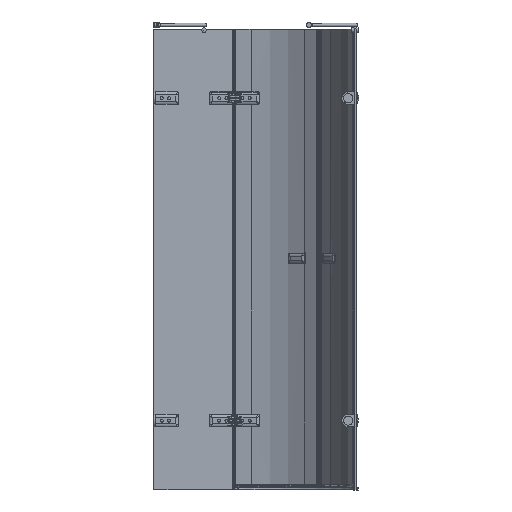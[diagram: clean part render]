
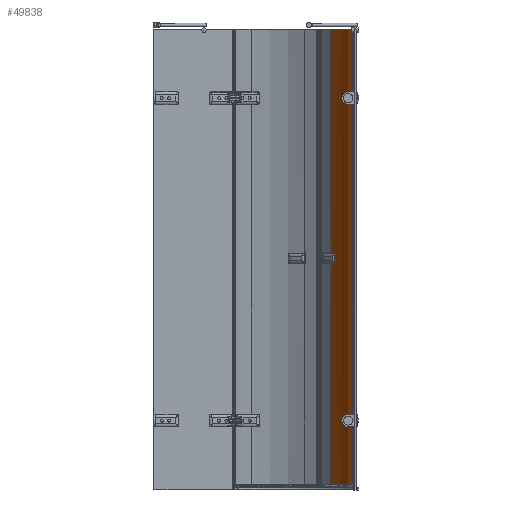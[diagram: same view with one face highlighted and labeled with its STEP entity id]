
A CAD part, left-side view. The second image highlights one B-rep face of the part: STEP entity #49838.
In plain terms, the highlighted cylindrical face has radius 524 mm (diameter 1048 mm), a partial arc.
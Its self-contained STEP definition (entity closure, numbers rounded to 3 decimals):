
#4047=LINE($,#115101,#7804);
#4059=LINE($,#115183,#7816);
#4060=LINE($,#115187,#7817);
#4061=LINE($,#115202,#7818);
#4062=LINE($,#115216,#7819);
#4063=LINE($,#115220,#7820);
#7804=VECTOR($,#66008,42.4);
#7816=VECTOR($,#66038,963.8);
#7817=VECTOR($,#66041,273.755);
#7818=VECTOR($,#66042,1387.51);
#7819=VECTOR($,#66043,293.755);
#7820=VECTOR($,#66046,970.5);
#8921=B_SPLINE_CURVE_WITH_KNOTS($,3,(#115189,#115190,#115191,#115192,#115193,
#115194,#115195,#115196,#115197,#115198,#115199,#115200),.UNSPECIFIED.,
 .F.,.F.,(4,2,2,2,2,4),(0.,0.394,0.894,1.386,
1.776,2.262),.UNSPECIFIED.);
#8922=B_SPLINE_CURVE_WITH_KNOTS($,3,(#115204,#115205,#115206,#115207,#115208,
#115209,#115210,#115211,#115212,#115213,#115214,#115215),.UNSPECIFIED.,
 .F.,.F.,(4,2,2,2,2,4),(0.,0.394,0.894,1.386,
1.776,2.262),.UNSPECIFIED.);
#8923=B_SPLINE_CURVE_WITH_KNOTS($,3,(#115221,#115222,#115223,#115224,#115225,
#115226,#115227,#115228),.UNSPECIFIED.,.F.,.F.,(4,2,2,4),(0.,0.209,
0.424,0.633),.UNSPECIFIED.);
#9574=CYLINDRICAL_SURFACE($,#54250,524.);
#12580=FACE_OUTER_BOUND($,#15648,.T.);
#15648=EDGE_LOOP($,(#40977,#40978,#40979,#40980,#40981,#40982,#40983,#40984,
#40985,#40986,#40987,#40988,#40989));
#17981=CIRCLE($,#54230,524.);
#17989=CIRCLE($,#54243,524.);
#17992=CIRCLE($,#54251,524.);
#17993=CIRCLE($,#54252,524.);
#21818=VERTEX_POINT($,#113057);
#22151=VERTEX_POINT($,#114753);
#22195=VERTEX_POINT($,#115018);
#22196=VERTEX_POINT($,#115019);
#22212=VERTEX_POINT($,#115100);
#22214=VERTEX_POINT($,#115106);
#22224=VERTEX_POINT($,#115184);
#22225=VERTEX_POINT($,#115186);
#22226=VERTEX_POINT($,#115188);
#22227=VERTEX_POINT($,#115201);
#22228=VERTEX_POINT($,#115203);
#22229=VERTEX_POINT($,#115217);
#22230=VERTEX_POINT($,#115219);
#28609=EDGE_CURVE($,#22195,#22196,#17981,.T.);
#28628=EDGE_CURVE($,#22196,#22212,#4047,.T.);
#28631=EDGE_CURVE($,#22212,#22214,#17989,.T.);
#28648=EDGE_CURVE($,#22151,#22214,#4059,.T.);
#28649=EDGE_CURVE($,#22151,#22224,#17992,.T.);
#28650=EDGE_CURVE($,#22225,#22224,#4060,.T.);
#28651=EDGE_CURVE($,#22225,#22226,#8921,.T.);
#28652=EDGE_CURVE($,#22227,#22226,#4061,.T.);
#28653=EDGE_CURVE($,#22227,#22228,#8922,.T.);
#28654=EDGE_CURVE($,#21818,#22228,#4062,.T.);
#28655=EDGE_CURVE($,#21818,#22229,#17993,.T.);
#28656=EDGE_CURVE($,#22230,#22229,#4063,.T.);
#28657=EDGE_CURVE($,#22230,#22195,#8923,.T.);
#40977=ORIENTED_EDGE($,*,*,#28609,.T.);
#40978=ORIENTED_EDGE($,*,*,#28628,.T.);
#40979=ORIENTED_EDGE($,*,*,#28631,.T.);
#40980=ORIENTED_EDGE($,*,*,#28648,.F.);
#40981=ORIENTED_EDGE($,*,*,#28649,.T.);
#40982=ORIENTED_EDGE($,*,*,#28650,.F.);
#40983=ORIENTED_EDGE($,*,*,#28651,.T.);
#40984=ORIENTED_EDGE($,*,*,#28652,.F.);
#40985=ORIENTED_EDGE($,*,*,#28653,.T.);
#40986=ORIENTED_EDGE($,*,*,#28654,.F.);
#40987=ORIENTED_EDGE($,*,*,#28655,.T.);
#40988=ORIENTED_EDGE($,*,*,#28656,.F.);
#40989=ORIENTED_EDGE($,*,*,#28657,.T.);
#49838=ADVANCED_FACE($,(#12580),#9574,.F.);
#54230=AXIS2_PLACEMENT_3D($,#115020,#65979,#65980);
#54243=AXIS2_PLACEMENT_3D($,#115107,#66013,#66014);
#54250=AXIS2_PLACEMENT_3D($,#115182,#66036,#66037);
#54251=AXIS2_PLACEMENT_3D($,#115185,#66039,#66040);
#54252=AXIS2_PLACEMENT_3D($,#115218,#66044,#66045);
#65979=DIRECTION('center_axis',(0.,0.,
-1.));
#65980=DIRECTION('ref_axis',(0.145,-0.989,0.));
#66008=DIRECTION($,(0.,0.,-1.));
#66013=DIRECTION('center_axis',(0.,0.,
1.));
#66014=DIRECTION('ref_axis',(0.145,-0.989,0.));
#66036=DIRECTION('center_axis',(0.,0.,
1.));
#66037=DIRECTION('ref_axis',(0.145,-0.989,0.));
#66038=DIRECTION($,(0.,0.,1.));
#66039=DIRECTION('center_axis',(0.,0.,
-1.));
#66040=DIRECTION('ref_axis',(0.145,-0.989,0.));
#66041=DIRECTION($,(0.,0.,-1.));
#66042=DIRECTION($,(0.,0.,-1.));
#66043=DIRECTION($,(0.,0.,-1.));
#66044=DIRECTION('center_axis',(0.,0.,
1.));
#66045=DIRECTION('ref_axis',(0.145,-0.989,0.));
#66046=DIRECTION($,(0.,0.,1.));
#113057=CARTESIAN_POINT('',(875.627,-117.957,1485.944));
#114753=CARTESIAN_POINT('',(1108.934,-22.607,-494.056));
#115018=CARTESIAN_POINT('',(1104.896,-25.527,512.144));
#115019=CARTESIAN_POINT('',(1102.427,-27.283,512.144));
#115020=CARTESIAN_POINT('Origin',(799.861,400.536,512.144));
#115100=CARTESIAN_POINT('',(1102.427,-27.283,469.744));
#115101=CARTESIAN_POINT($,(1102.427,-27.283,495.944));
#115106=CARTESIAN_POINT('',(1108.934,-22.607,469.744));
#115107=CARTESIAN_POINT('Origin',(799.861,400.536,469.744));
#115182=CARTESIAN_POINT('Origin',(799.861,400.536,495.944));
#115183=CARTESIAN_POINT($,(1108.934,-22.607,0.944));
#115184=CARTESIAN_POINT('',(875.627,-117.957,-494.056));
#115185=CARTESIAN_POINT('Origin',(799.861,400.536,-494.056));
#115186=CARTESIAN_POINT('',(875.627,-117.957,-220.3));
#115187=CARTESIAN_POINT($,(875.627,-117.957,137.822));
#115188=CARTESIAN_POINT('',(875.627,-117.957,-207.811));
#115189=CARTESIAN_POINT('Ctrl Pts',(875.627,-117.957,
-220.3));
#115190=CARTESIAN_POINT('Ctrl Pts',(876.636,-117.81,
-219.473));
#115191=CARTESIAN_POINT('Ctrl Pts',(877.211,-117.723,
-218.626));
#115192=CARTESIAN_POINT('Ctrl Pts',(878.106,-117.589,
-216.949));
#115193=CARTESIAN_POINT('Ctrl Pts',(878.417,-117.542,
-215.917));
#115194=CARTESIAN_POINT('Ctrl Pts',(878.624,-117.51,
-213.814));
#115195=CARTESIAN_POINT('Ctrl Pts',(878.525,-117.525,
-212.76));
#115196=CARTESIAN_POINT('Ctrl Pts',(877.997,-117.605,
-210.959));
#115197=CARTESIAN_POINT('Ctrl Pts',(877.643,-117.659,
-210.204));
#115198=CARTESIAN_POINT('Ctrl Pts',(876.604,-117.814,-208.661));
#115199=CARTESIAN_POINT('Ctrl Pts',(875.991,-117.904,
-208.109));
#115200=CARTESIAN_POINT('Ctrl Pts',(875.627,-117.957,
-207.811));
#115201=CARTESIAN_POINT('',(875.627,-117.957,1179.7));
#115202=CARTESIAN_POINT($,(875.627,-117.957,837.822));
#115203=CARTESIAN_POINT('',(875.627,-117.957,1192.189));
#115204=CARTESIAN_POINT('Ctrl Pts',(875.627,-117.957,
1179.7));
#115205=CARTESIAN_POINT('Ctrl Pts',(876.636,-117.81,
1180.527));
#115206=CARTESIAN_POINT('Ctrl Pts',(877.211,-117.723,
1181.374));
#115207=CARTESIAN_POINT('Ctrl Pts',(878.106,-117.589,1183.051));
#115208=CARTESIAN_POINT('Ctrl Pts',(878.417,-117.542,
1184.083));
#115209=CARTESIAN_POINT('Ctrl Pts',(878.624,-117.51,
1186.186));
#115210=CARTESIAN_POINT('Ctrl Pts',(878.525,-117.525,
1187.24));
#115211=CARTESIAN_POINT('Ctrl Pts',(877.997,-117.605,1189.041));
#115212=CARTESIAN_POINT('Ctrl Pts',(877.643,-117.659,
1189.796));
#115213=CARTESIAN_POINT('Ctrl Pts',(876.604,-117.814,
1191.339));
#115214=CARTESIAN_POINT('Ctrl Pts',(875.991,-117.904,
1191.891));
#115215=CARTESIAN_POINT('Ctrl Pts',(875.627,-117.957,
1192.189));
#115216=CARTESIAN_POINT($,(875.627,-117.957,990.944));
#115217=CARTESIAN_POINT('',(1108.934,-22.607,1485.944));
#115218=CARTESIAN_POINT('Origin',(799.861,400.536,1485.944));
#115219=CARTESIAN_POINT('',(1108.934,-22.607,515.444));
#115220=CARTESIAN_POINT($,(1108.934,-22.607,505.694));
#115221=CARTESIAN_POINT('Ctrl Pts',(1108.934,-22.607,
515.444));
#115222=CARTESIAN_POINT('Ctrl Pts',(1108.371,-23.018,
515.445));
#115223=CARTESIAN_POINT('Ctrl Pts',(1107.811,-23.425,
515.309));
#115224=CARTESIAN_POINT('Ctrl Pts',(1106.748,-24.195,
514.772));
#115225=CARTESIAN_POINT('Ctrl Pts',(1106.258,-24.549,
514.37));
#115226=CARTESIAN_POINT('Ctrl Pts',(1105.443,-25.135,
513.37));
#115227=CARTESIAN_POINT('Ctrl Pts',(1105.121,-25.366,
512.786));
#115228=CARTESIAN_POINT('Ctrl Pts',(1104.896,-25.527,
512.144));
